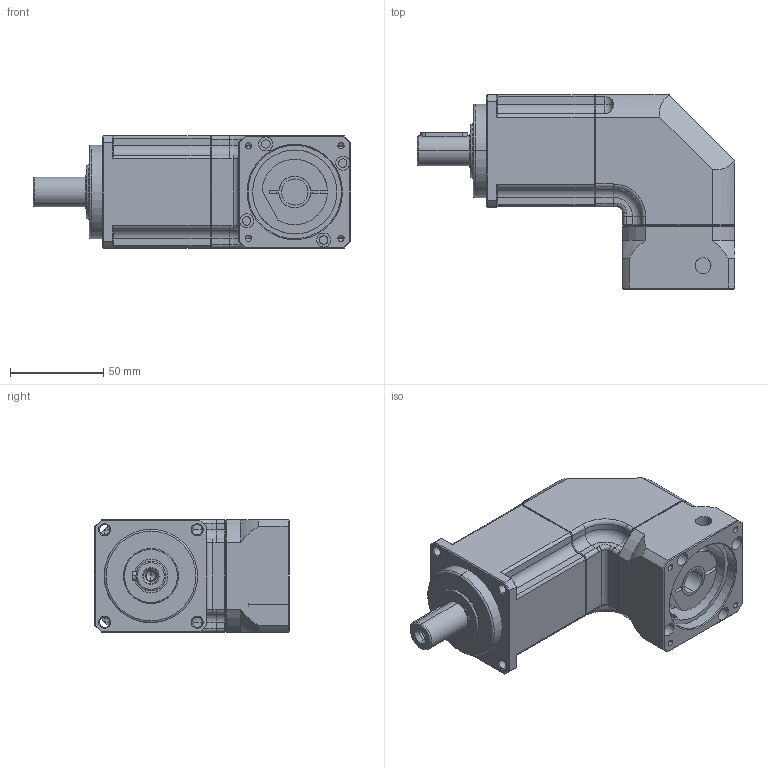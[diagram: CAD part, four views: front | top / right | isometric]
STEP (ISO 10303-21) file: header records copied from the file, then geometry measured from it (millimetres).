
FILE_DESCRIPTION (( 'STEP AP203' ), '1' );
FILE_NAME ('×°ÅäÌå1.STEP', '2020-09-02T00:20:23', ( '' ), ( '' ), 'SwSTEP 2.0', 'SolidWorks 2017', '' );
FILE_SCHEMA (( 'CONFIG_CONTROL_DESIGN' ));
Length unit declared in the file: millimetre
Products named in the file (1): 蚾饜极1
Bounding box: 170 x 104 x 60 mm (x, y, z)
Volume: 533677.1 mm3; surface area: 77375.5 mm2
Topology: 5 solids, 5 shells, 395 faces, 912 edges, 543 vertices
Faces by surface type: cylinder 140, plane 139, cone 94, torus 22
Entity records: 11569 total; most frequent: CARTESIAN_POINT 2492, DIRECTION 1972, ORIENTED_EDGE 1804, EDGE_CURVE 902, AXIS2_PLACEMENT_3D 769, VERTEX_POINT 543, EDGE_LOOP 443, LINE 434
